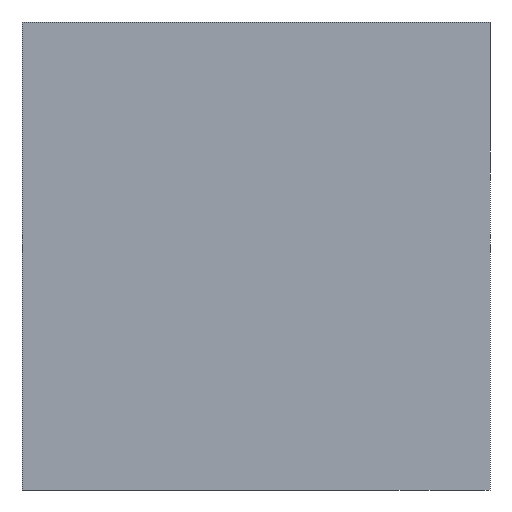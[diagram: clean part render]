
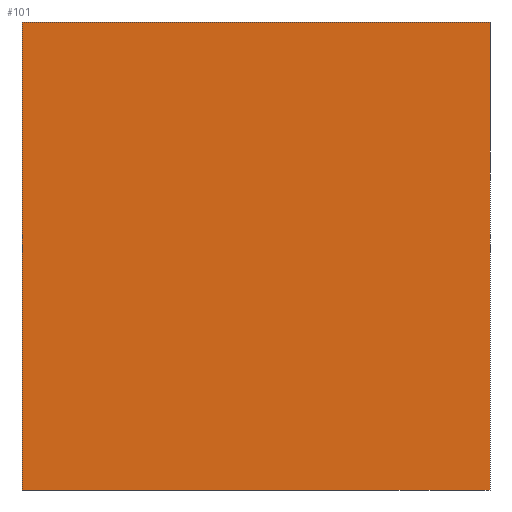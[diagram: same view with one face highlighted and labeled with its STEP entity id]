
A CAD part, left-side view. The second image highlights one B-rep face of the part: STEP entity #101.
In plain terms, the highlighted planar face has unit normal (-1, 0, 0).
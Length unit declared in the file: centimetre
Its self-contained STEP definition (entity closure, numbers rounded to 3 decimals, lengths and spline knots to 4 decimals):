
#6 = VECTOR ( 'NONE', #82, 100. ) ;
#9 = DIRECTION ( 'NONE',  ( 1., 0., 0. ) ) ;
#16 = EDGE_CURVE ( 'NONE', #422, #356, #31, .T. ) ;
#31 = LINE ( 'NONE', #129, #6 ) ;
#54 = VECTOR ( 'NONE', #240, 100. ) ;
#56 = DIRECTION ( 'NONE',  ( 0., 0., -1. ) ) ;
#63 = CARTESIAN_POINT ( 'NONE',  ( 0., 1000., 1000. ) ) ;
#66 = CARTESIAN_POINT ( 'NONE',  ( 0., 1000., 0. ) ) ;
#82 = DIRECTION ( 'NONE',  ( 0., -1., 0. ) ) ;
#101 = ADVANCED_FACE ( 'NONE', ( #401 ), #393, .F. ) ;
#129 = CARTESIAN_POINT ( 'NONE',  ( 0., 1000., 1000. ) ) ;
#239 = ORIENTED_EDGE ( 'NONE', *, *, #398, .T. ) ;
#240 = DIRECTION ( 'NONE',  ( 0., -1., 0. ) ) ;
#245 = AXIS2_PLACEMENT_3D ( 'NONE', #63, #9, #522 ) ;
#262 = CARTESIAN_POINT ( 'NONE',  ( 0., 0., 0. ) ) ;
#268 = LINE ( 'NONE', #433, #453 ) ;
#275 = ORIENTED_EDGE ( 'NONE', *, *, #346, .T. ) ;
#296 = ORIENTED_EDGE ( 'NONE', *, *, #305, .F. ) ;
#299 = VERTEX_POINT ( 'NONE', #262 ) ;
#305 = EDGE_CURVE ( 'NONE', #356, #299, #268, .T. ) ;
#314 = EDGE_LOOP ( 'NONE', ( #239, #296, #460, #275 ) ) ;
#325 = CARTESIAN_POINT ( 'NONE',  ( 0., 1000., 0. ) ) ;
#346 = EDGE_CURVE ( 'NONE', #422, #390, #408, .T. ) ;
#356 = VERTEX_POINT ( 'NONE', #488 ) ;
#364 = DIRECTION ( 'NONE',  ( 0., 0., -1. ) ) ;
#389 = VECTOR ( 'NONE', #364, 100. ) ;
#390 = VERTEX_POINT ( 'NONE', #66 ) ;
#393 = PLANE ( 'NONE',  #245 ) ;
#398 = EDGE_CURVE ( 'NONE', #390, #299, #495, .T. ) ;
#401 = FACE_OUTER_BOUND ( 'NONE', #314, .T. ) ;
#402 = CARTESIAN_POINT ( 'NONE',  ( 0., 1000., 1000. ) ) ;
#408 = LINE ( 'NONE', #527, #389 ) ;
#422 = VERTEX_POINT ( 'NONE', #402 ) ;
#433 = CARTESIAN_POINT ( 'NONE',  ( 0., 0., 1000. ) ) ;
#453 = VECTOR ( 'NONE', #56, 100. ) ;
#460 = ORIENTED_EDGE ( 'NONE', *, *, #16, .F. ) ;
#488 = CARTESIAN_POINT ( 'NONE',  ( 0., 0., 1000. ) ) ;
#495 = LINE ( 'NONE', #325, #54 ) ;
#522 = DIRECTION ( 'NONE',  ( 0., 0., -1. ) ) ;
#527 = CARTESIAN_POINT ( 'NONE',  ( 0., 1000., 1000. ) ) ;
